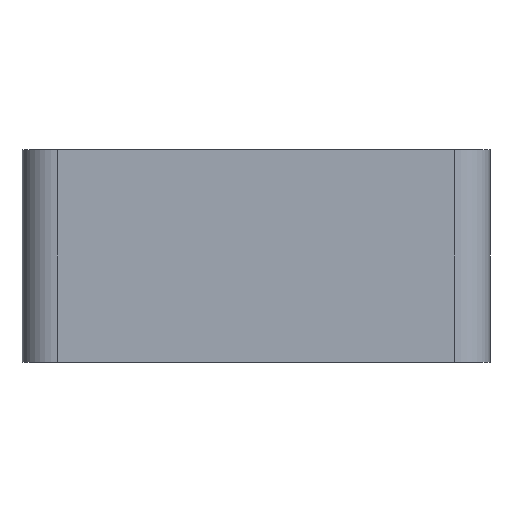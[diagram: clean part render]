
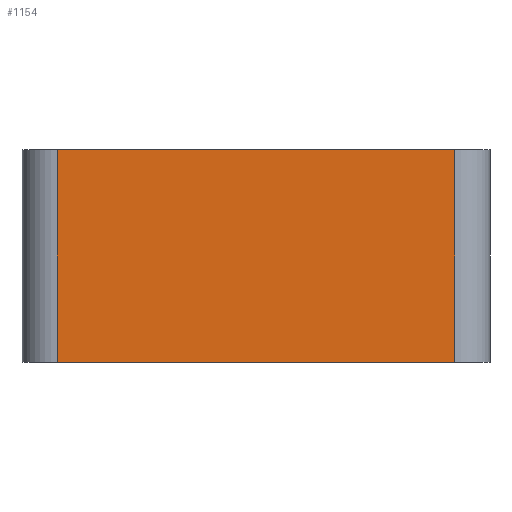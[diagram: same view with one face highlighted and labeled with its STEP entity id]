
A CAD part, front view. The second image highlights one B-rep face of the part: STEP entity #1154.
In plain terms, the highlighted planar face has unit normal (0, -1, 0).
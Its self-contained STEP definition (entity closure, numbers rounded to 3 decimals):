
#587 = VERTEX_POINT('',#588);
#588 = CARTESIAN_POINT('',(2.5,0.,15.));
#595 = EDGE_CURVE('',#587,#596,#598,.T.);
#596 = VERTEX_POINT('',#597);
#597 = CARTESIAN_POINT('',(30.5,0.,15.));
#598 = LINE('',#599,#600);
#599 = CARTESIAN_POINT('',(30.5,-0.,15.));
#600 = VECTOR('',#601,1.);
#601 = DIRECTION('',(1.,-0.,0.));
#1134 = VERTEX_POINT('',#1135);
#1135 = CARTESIAN_POINT('',(30.5,-0.,0.));
#1144 = EDGE_CURVE('',#1134,#596,#1145,.T.);
#1145 = LINE('',#1146,#1147);
#1146 = CARTESIAN_POINT('',(30.5,-0.,0.));
#1147 = VECTOR('',#1148,1.);
#1148 = DIRECTION('',(0.,0.,1.));
#1154 = ADVANCED_FACE('',(#1155),#1173,.T.);
#1155 = FACE_BOUND('',#1156,.T.);
#1156 = EDGE_LOOP('',(#1157,#1165,#1166,#1167));
#1157 = ORIENTED_EDGE('',*,*,#1158,.F.);
#1158 = EDGE_CURVE('',#1134,#1159,#1161,.T.);
#1159 = VERTEX_POINT('',#1160);
#1160 = CARTESIAN_POINT('',(2.5,0.,0.));
#1161 = LINE('',#1162,#1163);
#1162 = CARTESIAN_POINT('',(30.5,-0.,0.));
#1163 = VECTOR('',#1164,1.);
#1164 = DIRECTION('',(-1.,0.,0.));
#1165 = ORIENTED_EDGE('',*,*,#1144,.T.);
#1166 = ORIENTED_EDGE('',*,*,#595,.F.);
#1167 = ORIENTED_EDGE('',*,*,#1168,.F.);
#1168 = EDGE_CURVE('',#1159,#587,#1169,.T.);
#1169 = LINE('',#1170,#1171);
#1170 = CARTESIAN_POINT('',(2.5,0.,0.));
#1171 = VECTOR('',#1172,1.);
#1172 = DIRECTION('',(0.,0.,1.));
#1173 = PLANE('',#1174);
#1174 = AXIS2_PLACEMENT_3D('',#1175,#1176,#1177);
#1175 = CARTESIAN_POINT('',(2.5,0.,0.));
#1176 = DIRECTION('',(-0.,-1.,0.));
#1177 = DIRECTION('',(1.,0.,0.));
